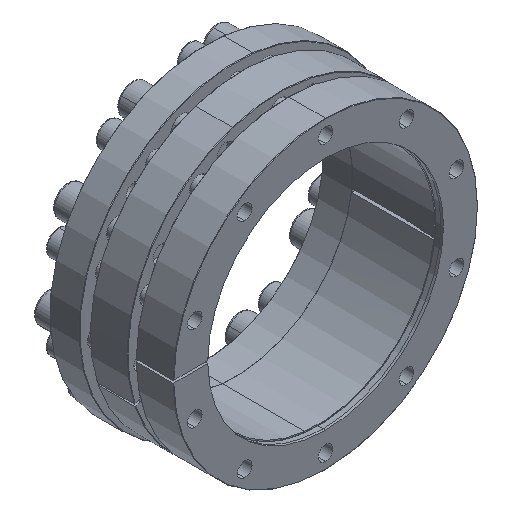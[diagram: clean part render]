
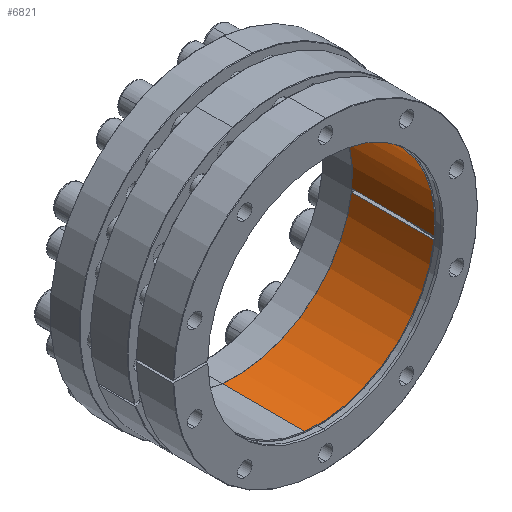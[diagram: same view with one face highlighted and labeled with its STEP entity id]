
A CAD part, isometric view. The second image highlights one B-rep face of the part: STEP entity #6821.
In plain terms, the highlighted cylindrical face has radius 140 mm (diameter 280 mm), a partial arc.
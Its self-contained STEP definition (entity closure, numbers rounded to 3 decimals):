
#764 = DIRECTION ( 'NONE',  ( 0., -1., 0. ) ) ;
#1031 = CARTESIAN_POINT ( 'NONE',  ( 139.287, 9.005, -14.108 ) ) ;
#1050 = VECTOR ( 'NONE', #6865, 1000. ) ;
#1281 = CARTESIAN_POINT ( 'NONE',  ( 0., 9.005, 0. ) ) ;
#2267 = CYLINDRICAL_SURFACE ( 'NONE', #19669, 140. ) ;
#3270 = VECTOR ( 'NONE', #3485, 1000. ) ;
#3485 = DIRECTION ( 'NONE',  ( 0., -1., 0. ) ) ;
#3572 = AXIS2_PLACEMENT_3D ( 'NONE', #28323, #13629, #30777 ) ;
#3742 = DIRECTION ( 'NONE',  ( -0.113, 0., -0.994 ) ) ;
#3743 = EDGE_CURVE ( 'NONE', #13405, #28026, #18022, .T. ) ;
#4773 = CARTESIAN_POINT ( 'NONE',  ( 138.891, 9.005, -17.586 ) ) ;
#4866 = VERTEX_POINT ( 'NONE', #4773 ) ;
#4924 = ORIENTED_EDGE ( 'NONE', *, *, #28128, .T. ) ;
#4960 = VECTOR ( 'NONE', #12227, 1000. ) ;
#5205 = CARTESIAN_POINT ( 'NONE',  ( -15.848, 108.005, -139.1 ) ) ;
#6821 = ADVANCED_FACE ( 'NONE', ( #8359 ), #2267, .F. ) ;
#6865 = DIRECTION ( 'NONE',  ( 0., -1., 0. ) ) ;
#7071 = EDGE_CURVE ( 'NONE', #23465, #13405, #30599, .T. ) ;
#7514 = ORIENTED_EDGE ( 'NONE', *, *, #14631, .T. ) ;
#7969 = CARTESIAN_POINT ( 'NONE',  ( 139.287, 9.005, -14.108 ) ) ;
#8359 = FACE_OUTER_BOUND ( 'NONE', #28945, .T. ) ;
#8601 = AXIS2_PLACEMENT_3D ( 'NONE', #15415, #764, #17889 ) ;
#9197 = CARTESIAN_POINT ( 'NONE',  ( 139.287, 107.505, -14.108 ) ) ;
#10549 = VERTEX_POINT ( 'NONE', #10743 ) ;
#10567 = EDGE_CURVE ( 'NONE', #20812, #16476, #30081, .T. ) ;
#10743 = CARTESIAN_POINT ( 'NONE',  ( 138.891, 107.505, -17.586 ) ) ;
#11908 = ORIENTED_EDGE ( 'NONE', *, *, #3743, .F. ) ;
#12067 = DIRECTION ( 'NONE',  ( 0., 1., 0. ) ) ;
#12227 = DIRECTION ( 'NONE',  ( 0., -1., 0. ) ) ;
#13061 = CARTESIAN_POINT ( 'NONE',  ( 15.848, 9.005, 139.1 ) ) ;
#13112 = AXIS2_PLACEMENT_3D ( 'NONE', #1281, #18433, #3742 ) ;
#13405 = VERTEX_POINT ( 'NONE', #16348 ) ;
#13629 = DIRECTION ( 'NONE',  ( 0., -1., 0. ) ) ;
#13679 = ORIENTED_EDGE ( 'NONE', *, *, #18779, .T. ) ;
#13814 = CARTESIAN_POINT ( 'NONE',  ( 0., 108.005, 0. ) ) ;
#14631 = EDGE_CURVE ( 'NONE', #23465, #23007, #20612, .T. ) ;
#15346 = DIRECTION ( 'NONE',  ( 0., -1., 0. ) ) ;
#15415 = CARTESIAN_POINT ( 'NONE',  ( 0., 9.005, 0. ) ) ;
#16311 = DIRECTION ( 'NONE',  ( -0.113, 0., -0.994 ) ) ;
#16348 = CARTESIAN_POINT ( 'NONE',  ( 15.848, 108.005, 139.1 ) ) ;
#16476 = VERTEX_POINT ( 'NONE', #7969 ) ;
#16876 = CARTESIAN_POINT ( 'NONE',  ( 15.848, 9.005, 139.1 ) ) ;
#17031 = CARTESIAN_POINT ( 'NONE',  ( 138.891, 9.005, -17.586 ) ) ;
#17886 = CARTESIAN_POINT ( 'NONE',  ( -15.848, 9.005, -139.1 ) ) ;
#17889 = DIRECTION ( 'NONE',  ( -0.113, 0., -0.994 ) ) ;
#18022 = LINE ( 'NONE', #16876, #4960 ) ;
#18433 = DIRECTION ( 'NONE',  ( 0., -1., 0. ) ) ;
#18460 = LINE ( 'NONE', #17031, #24193 ) ;
#18509 = CIRCLE ( 'NONE', #8601, 140. ) ;
#18747 = ORIENTED_EDGE ( 'NONE', *, *, #29530, .T. ) ;
#18779 = EDGE_CURVE ( 'NONE', #10549, #20812, #23588, .T. ) ;
#19088 = CARTESIAN_POINT ( 'NONE',  ( -15.848, 9.005, -139.1 ) ) ;
#19669 = AXIS2_PLACEMENT_3D ( 'NONE', #27464, #15346, #25225 ) ;
#20554 = EDGE_CURVE ( 'NONE', #23007, #4866, #18509, .T. ) ;
#20612 = LINE ( 'NONE', #19088, #1050 ) ;
#20812 = VERTEX_POINT ( 'NONE', #9197 ) ;
#21560 = ORIENTED_EDGE ( 'NONE', *, *, #10567, .T. ) ;
#23007 = VERTEX_POINT ( 'NONE', #17886 ) ;
#23465 = VERTEX_POINT ( 'NONE', #5205 ) ;
#23588 = CIRCLE ( 'NONE', #3572, 140. ) ;
#23973 = AXIS2_PLACEMENT_3D ( 'NONE', #13814, #30965, #16311 ) ;
#24193 = VECTOR ( 'NONE', #12067, 1000. ) ;
#25225 = DIRECTION ( 'NONE',  ( -0.113, 0., -0.994 ) ) ;
#27162 = ORIENTED_EDGE ( 'NONE', *, *, #20554, .T. ) ;
#27464 = CARTESIAN_POINT ( 'NONE',  ( 0., 9.005, 0. ) ) ;
#28026 = VERTEX_POINT ( 'NONE', #13061 ) ;
#28128 = EDGE_CURVE ( 'NONE', #16476, #28026, #29879, .T. ) ;
#28323 = CARTESIAN_POINT ( 'NONE',  ( 0., 107.505, 0. ) ) ;
#28945 = EDGE_LOOP ( 'NONE', ( #11908, #29018, #7514, #27162, #18747, #13679, #21560, #4924 ) ) ;
#29018 = ORIENTED_EDGE ( 'NONE', *, *, #7071, .F. ) ;
#29530 = EDGE_CURVE ( 'NONE', #4866, #10549, #18460, .T. ) ;
#29879 = CIRCLE ( 'NONE', #13112, 140. ) ;
#30081 = LINE ( 'NONE', #1031, #3270 ) ;
#30599 = CIRCLE ( 'NONE', #23973, 140. ) ;
#30777 = DIRECTION ( 'NONE',  ( 0.113, 0., 0.994 ) ) ;
#30965 = DIRECTION ( 'NONE',  ( 0., -1., 0. ) ) ;
